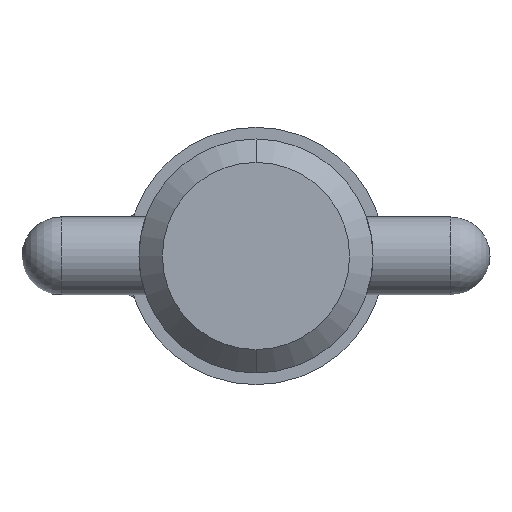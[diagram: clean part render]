
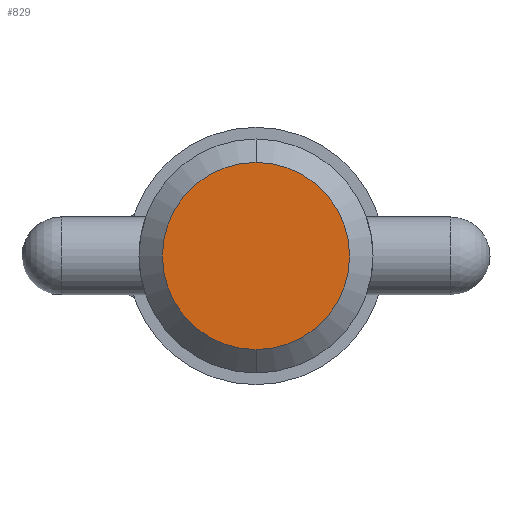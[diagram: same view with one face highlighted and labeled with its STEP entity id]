
A CAD part, left-side view. The second image highlights one B-rep face of the part: STEP entity #829.
In plain terms, the highlighted planar face has unit normal (-1, 0, 0).
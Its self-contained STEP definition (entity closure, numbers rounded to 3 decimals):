
#56 = DIRECTION ( 'NONE',  ( 0., 0., -1. ) ) ;
#83 = ORIENTED_EDGE ( 'NONE', *, *, #550, .F. ) ;
#133 = CARTESIAN_POINT ( 'NONE',  ( 0., 0., 0. ) ) ;
#135 = EDGE_LOOP ( 'NONE', ( #638, #83 ) ) ;
#141 = DIRECTION ( 'NONE',  ( 1., 0., 0. ) ) ;
#291 = DIRECTION ( 'NONE',  ( 0., 0., -1. ) ) ;
#315 = CIRCLE ( 'NONE', #459, 7.62 ) ;
#346 = VERTEX_POINT ( 'NONE', #1014 ) ;
#407 = DIRECTION ( 'NONE',  ( 0., 0., 1. ) ) ;
#459 = AXIS2_PLACEMENT_3D ( 'NONE', #133, #1026, #291 ) ;
#465 = CARTESIAN_POINT ( 'NONE',  ( 0., 0., 0. ) ) ;
#521 = EDGE_CURVE ( 'NONE', #346, #531, #769, .T. ) ;
#531 = VERTEX_POINT ( 'NONE', #630 ) ;
#550 = EDGE_CURVE ( 'NONE', #531, #346, #315, .T. ) ;
#603 = DIRECTION ( 'NONE',  ( -1., 0., 0. ) ) ;
#630 = CARTESIAN_POINT ( 'NONE',  ( 0., 0., 7.62 ) ) ;
#638 = ORIENTED_EDGE ( 'NONE', *, *, #521, .F. ) ;
#657 = AXIS2_PLACEMENT_3D ( 'NONE', #465, #141, #56 ) ;
#753 = PLANE ( 'NONE',  #870 ) ;
#769 = CIRCLE ( 'NONE', #657, 7.62 ) ;
#829 = ADVANCED_FACE ( 'NONE', ( #999 ), #753, .T. ) ;
#870 = AXIS2_PLACEMENT_3D ( 'NONE', #981, #603, #407 ) ;
#981 = CARTESIAN_POINT ( 'NONE',  ( 0., 0., 0. ) ) ;
#999 = FACE_OUTER_BOUND ( 'NONE', #135, .T. ) ;
#1014 = CARTESIAN_POINT ( 'NONE',  ( 0., 0., -7.62 ) ) ;
#1026 = DIRECTION ( 'NONE',  ( 1., 0., 0. ) ) ;
